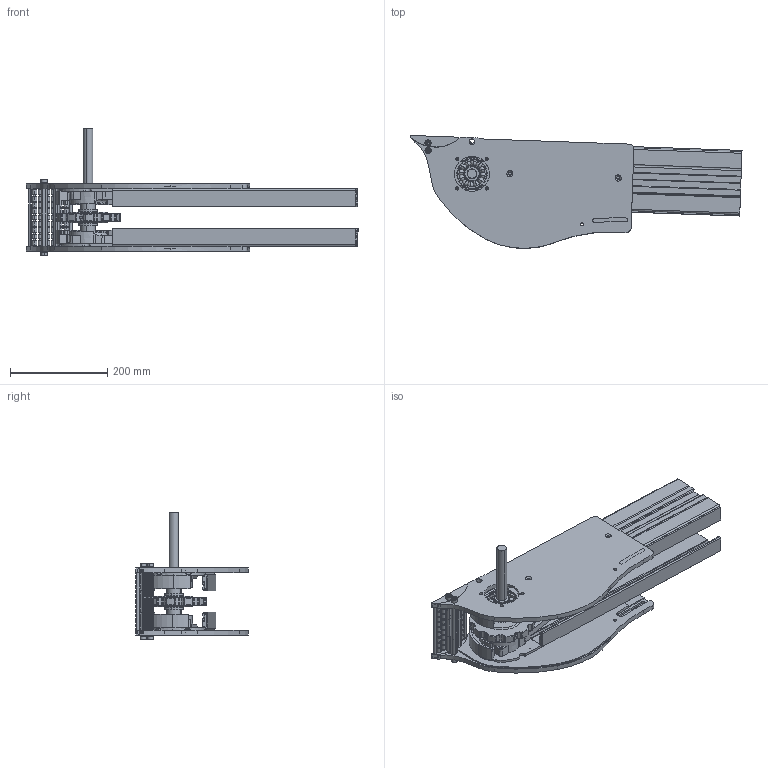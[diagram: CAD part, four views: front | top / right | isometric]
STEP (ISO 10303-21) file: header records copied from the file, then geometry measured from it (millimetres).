
FILE_DESCRIPTION (( 'STEP AP214' ), '1' );
FILE_NAME ('R3M-G20galets escamotables.STEP', '2011-06-28T11:56:38', ( '.' ), ( '' ), 'SwSTEP 2.0', 'SolidWorks 2010', '' );
FILE_SCHEMA (( 'AUTOMOTIVE_DESIGN' ));
Length unit declared in the file: millimetre
Products named in the file (16): 3-880-11N_ROBUR; Carter sous chaine_Robur 3 à 120° (G); R-CMG-escamotable_A droite fermé; Carter sous chaine_Robur 3 à 120° (D); R3FS_Default<Brut d''usinage>; Roulement type BT 30x62x20; AXE_D6 (transfert à galets)_AXE_D6-134_INOX; GT_6-10; 1-2 chape; galet escamotable_Default; AF12-8_120; glissement R3PG_Default<Brut d''usinage>; AXE-R3_AXE-R3M20; Emile_Maurin_23210_V_CHC_8x50_EF___cl_8_8___EN_ISO_4762_DIN_912_Emile Maurin 23210 V.CHC 8x50 EF   cl 8,8   EN ISO 4762 DIN 912; R-CMG-escamotable_A gauche ouvert; R3M-G20galets escamotables
Assembly tree (84 placements, depth 2):
  R3M-G20galets escamotables
    GT_6-10  x54
    AF12-8_120  x3
    galet escamotable_Default  x2
    Carter sous chaine_Robur 3 à 120° (G)
    1-2 chape  x2
    glissement R3PG_Default<Brut d''usinage>  x2
    AXE_D6 (transfert à galets)_AXE_D6-134_INOX  x8
    R-CMG-escamotable_A droite fermé
    Roulement type BT 30x62x20  x2
    Emile_Maurin_23210_V_CHC_8x50_EF___cl_8_8___EN_ISO_4762_DIN_912_Emile Maurin 23210 V.CHC 8x50 EF   cl 8,8   EN ISO 4762 DIN 912  x4
    R3FS_Default<Brut d''usinage>
    AXE-R3_AXE-R3M20
    3-880-11N_ROBUR
    Carter sous chaine_Robur 3 à 120° (D)
    R-CMG-escamotable_A gauche ouvert
Bounding box: 682.44 x 232.14 x 263 mm (x, y, z)
Volume: 3671167.5 mm3; surface area: 1354083 mm2
Topology: 87 solids, 87 shells, 1790 faces, 4851 edges, 3175 vertices
Faces by surface type: cylinder 829, plane 642, cone 167, torus 102, sphere 48, bspline 2
Entity records: 34884 total; most frequent: CARTESIAN_POINT 7795, DIRECTION 5680, ORIENTED_EDGE 5430, EDGE_CURVE 2715, AXIS2_PLACEMENT_3D 2186, VERTEX_POINT 1791, VECTOR 1308, LINE 1308
